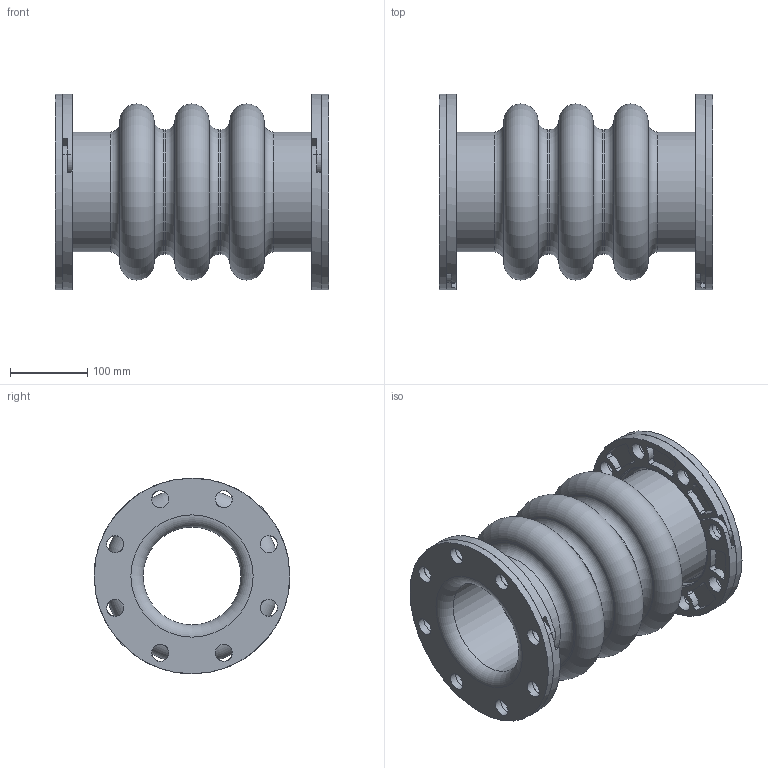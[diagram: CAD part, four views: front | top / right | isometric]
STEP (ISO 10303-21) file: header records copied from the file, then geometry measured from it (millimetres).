
FILE_DESCRIPTION(/* description */ (''),/* implementation_level */ '2;1');
FILE_NAME(/* name */ 'C:\001_Work\Designs\Mercer2014\MQInventor2014\RajR\500 Style\503\New folder\503 5IDx14FF.stp',/* time_stamp */ '2016-03-26T18:09:39-04:00',/* author */ ('rramoutar'),/* organization */ ('Mason Industries Inc.'),/* preprocessor_version */ 'ST-DEVELOPER v15.6',/* originating_system */ 'Autodesk Inventor 2015',/* authorisation */ '');
FILE_SCHEMA (('CONFIG_CONTROL_DESIGN'));
Length unit declared in the file: inch
Products named in the file (1): 503 5IDx14FF
Bounding box: 355.6 x 254 x 254 mm (x, y, z)
Volume: 4818201.5 mm3; surface area: 841675 mm2
Topology: 3 solids, 3 shells, 294 faces, 764 edges, 490 vertices
Faces by surface type: cylinder 190, plane 68, torus 24, cone 12
Full cylindrical faces by diameter (mm): 22.225 x36, 127 x4, 155.575 x2, 161.925 x2, 254 x2
Entity records: 9380 total; most frequent: DIRECTION 1698, CARTESIAN_POINT 1675, ORIENTED_EDGE 1364, AXIS2_PLACEMENT_3D 737, EDGE_CURVE 682, VERTEX_POINT 482, EDGE_LOOP 452, CIRCLE 442
